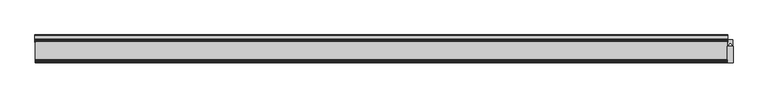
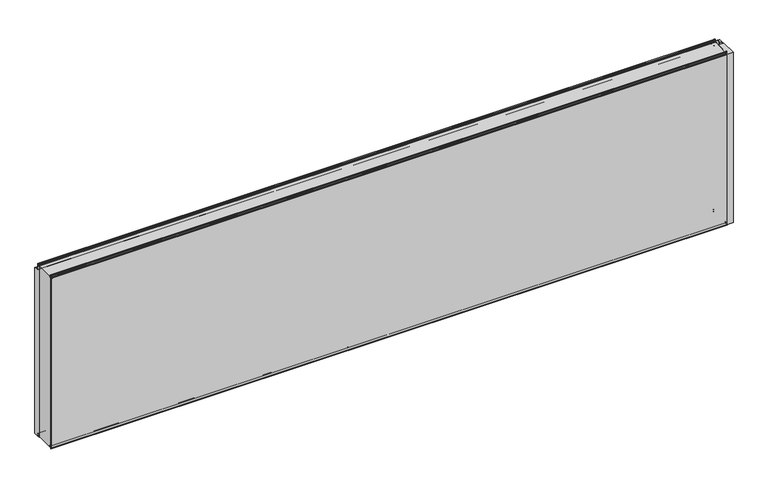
"""IFC4 building model written with IfcOpenShell, lengths in millimetres: plate geometry, Fronttop : Fronttop 150/1000."""

from ifc_helpers import new_model, si_unit, point, frame, frame_2d, origin, origin_with_axes, place, context, project, spatial, polyline, circle_curve, trimmed, segment, composite_curve, outline, extrude, source, transform, mapped, element, save
from ifc_brep_helpers import plane_surface, cylinder_surface, revolved_surface, advanced_brep


def plate_d031de24(model_context):
    return source(origin(), model_context, "Body", "SolidModel", [
        advanced_brep(
        [(-1876.5, 124.0, 1008.0), (-1876.5, 121.0, 1008.0), (-1876.5, 121.0, 1004.0), (-1876.5, 117.0, 1000.0), (-1876.5, 115.0, 1000.0), (-1876.5, 115.0, 1001.0), (-1876.5, 117.0, 1001.0), (-1876.5, 120.0, 1004.0), (-1876.5, 120.0, 1008.0), (-1876.5, 125.0, 1008.0), (-1876.5, 125.0, 1000.0), (-1876.5, 124.0, 1000.0), (1876.5, 125.0, 1008.0), (1876.5, 120.0, 1008.0), (1876.5, 120.0, 1004.0), (1876.5, 117.0, 1001.0), (1876.5, 115.0, 1001.0), (1876.5, 115.0, 1000.0), (1876.5, 117.0, 1000.0), (1876.5, 121.0, 1004.0), (1876.5, 121.0, 1008.0), (1876.5, 124.0, 1008.0), (1876.5, 124.0, 1000.0), (1876.5, 125.0, 1000.0), (-1876.5, 117.0, 2.0), (1876.5, 117.0, 2.0), (1876.5, 115.0, 2.0), (-1876.5, 115.0, 2.0), (-1876.5, 119.0, 4.0), (1876.5, 119.0, 4.0), (-1876.5, 119.0, 8.0), (1876.5, 119.0, 8.0), (-1876.5, 126.0, 8.0), (1876.5, 126.0, 8.0), (-1876.5, 126.0, 0.0), (1876.5, 126.0, 0.0), (-1876.5, 129.0, -3.0), (1876.5, 129.0, -3.0), (-1876.5, 125.0, -3.0), (-1877.5, 125.0, -3.0), (-1877.5, 147.0, -3.0), (-1876.5, 147.0, -3.0), (1876.5, 147.0, -3.0), (1877.5, 147.0, -3.0), (1877.5, 125.0, -3.0), (1876.5, 125.0, -3.0), (-1876.5, 150.0, 0.0), (1876.5, 150.0, 0.0), (-1877.5, 150.0, 0.0), (-1877.5, 150.0, 969.0), (-1876.5, 150.0, 969.0), (1876.5, 150.0, 969.0), (1877.5, 150.0, 969.0), (1877.5, 150.0, 0.0), (-1876.5, 147.0, 972.0), (1876.5, 147.0, 972.0), (-1877.5, 147.0, 972.0), (-1877.5, 128.0, 972.0), (-1876.5, 128.0, 972.0), (1876.5, 128.0, 972.0), (1877.5, 128.0, 972.0), (1877.5, 147.0, 972.0), (-1876.5, 125.0, 975.0), (1876.5, 125.0, 975.0), (-1877.5, 125.0, 975.0), (-1877.5, 125.0, 1000.0), (1877.5, 125.0, 1000.0), (1877.5, 125.0, 975.0), (-1876.5, 124.0, 975.0), (1876.5, 124.0, 975.0), (-1876.5, 128.0, 971.0), (1876.5, 128.0, 971.0), (-1876.5, 147.0, 971.0), (1876.5, 147.0, 971.0), (-1876.5, 149.0, 969.0), (1876.5, 149.0, 969.0), (-1876.5, 149.0, 0.0), (1876.5, 149.0, 0.0), (-1876.5, 147.0, -2.0), (1876.5, 147.0, -2.0), (-1876.5, 129.0, -2.0), (1876.5, 129.0, -2.0), (-1876.5, 127.0, 0.0), (1876.5, 127.0, 0.0), (-1876.5, 127.0, 8.0), (1876.5, 127.0, 8.0), (-1876.5, 118.0, 8.0), (1876.5, 118.0, 8.0), (-1876.5, 118.0, 4.0), (1876.5, 118.0, 4.0), (-1876.5, 117.0, 3.0), (1876.5, 117.0, 3.0), (-1876.5, 115.0, 3.0), (1876.5, 115.0, 3.0), (1877.5, 110.0, 1000.0), (1877.5, 110.0, 0.0), (1877.5, 125.0, 0.0), (1876.5, 125.0, 0.0), (1876.5, 110.0, 0.0), (1876.5, 110.0, 1000.0), (-1877.5, 125.0, 0.0), (-1877.5, 110.0, 0.0), (-1877.5, 110.0, 1000.0), (-1876.5, 110.0, 1000.0), (-1876.5, 110.0, 0.0), (-1876.5, 125.0, 0.0)],
        [
            (0, 1, circle_curve(frame((-1876.5, 122.5, 1008.0), z_axis=(1.0, 0.0, 0.0), x_axis=(0.0, -1.0, 0.0)), 1.5)),
            (1, 2),
            (2, 3, circle_curve(frame((-1876.5, 117.0, 1004.0), z_axis=(-1.0, 0.0, 0.0), x_axis=(0.0, -1.0, 0.0)), 4.0)),
            (3, 4),
            (4, 5),
            (5, 6),
            (6, 7, circle_curve(frame((-1876.5, 117.0, 1004.0), z_axis=(1.0, 0.0, 0.0), x_axis=(0.0, -1.0, 0.0)), 3.0)),
            (7, 8),
            (8, 9, circle_curve(frame((-1876.5, 122.5, 1008.0), z_axis=(-1.0, 0.0, 0.0), x_axis=(0.0, -1.0, 0.0)), 2.5)),
            (9, 10),
            (10, 11),
            (11, 0),
            (12, 13, circle_curve(frame((1876.5, 122.5, 1008.0), z_axis=(1.0, 0.0, 0.0), x_axis=(0.0, -1.0, 0.0)), 2.5)),
            (13, 14),
            (14, 15, circle_curve(frame((1876.5, 117.0, 1004.0), z_axis=(-1.0, 0.0, 0.0), x_axis=(0.0, -1.0, 0.0)), 3.0)),
            (15, 16),
            (16, 17),
            (17, 18),
            (18, 19, circle_curve(frame((1876.5, 117.0, 1004.0), z_axis=(1.0, 0.0, 0.0), x_axis=(0.0, -1.0, 0.0)), 4.0)),
            (19, 20),
            (20, 21, circle_curve(frame((1876.5, 122.5, 1008.0), z_axis=(-1.0, 0.0, 0.0), x_axis=(0.0, -1.0, 0.0)), 1.5)),
            (21, 22),
            (22, 23),
            (23, 12),
            (24, 25),
            (25, 26),
            (26, 27),
            (27, 24),
            (24, 28, circle_curve(frame((-1876.5, 117.0, 4.0), z_axis=(1.0, 0.0, 0.0), x_axis=(0.0, -1.0, 0.0)), 2.0)),
            (28, 29),
            (29, 25, circle_curve(frame((1876.5, 117.0, 4.0), z_axis=(-1.0, 0.0, 0.0), x_axis=(0.0, -1.0, 0.0)), 2.0)),
            (28, 30),
            (30, 31),
            (31, 29),
            (30, 32, circle_curve(frame((-1876.5, 122.5, 8.0), z_axis=(-1.0, 0.0, 0.0), x_axis=(0.0, -1.0, 0.0)), 3.5)),
            (32, 33),
            (33, 31, circle_curve(frame((1876.5, 122.5, 8.0), z_axis=(1.0, 0.0, 0.0), x_axis=(0.0, -1.0, 0.0)), 3.5)),
            (32, 34),
            (34, 35),
            (35, 33),
            (34, 36, circle_curve(frame((-1876.5, 129.0, 0.0), z_axis=(1.0, 0.0, 0.0), x_axis=(0.0, -1.0, 0.0)), 3.0)),
            (36, 37),
            (37, 35, circle_curve(frame((1876.5, 129.0, 0.0), z_axis=(-1.0, 0.0, 0.0), x_axis=(0.0, -1.0, 0.0)), 3.0)),
            (36, 38),
            (38, 39),
            (39, 40),
            (40, 41),
            (41, 42),
            (42, 43),
            (43, 44),
            (44, 45),
            (45, 37),
            (41, 46, circle_curve(frame((-1876.5, 147.0, 0.0), z_axis=(1.0, 0.0, 0.0), x_axis=(0.0, -1.0, 0.0)), 3.0)),
            (46, 47),
            (47, 42, circle_curve(frame((1876.5, 147.0, 0.0), z_axis=(-1.0, 0.0, 0.0), x_axis=(0.0, -1.0, 0.0)), 3.0)),
            (46, 48),
            (48, 49),
            (49, 50),
            (50, 51),
            (51, 52),
            (52, 53),
            (53, 47),
            (50, 54, circle_curve(frame((-1876.5, 147.0, 969.0), z_axis=(1.0, 0.0, 0.0), x_axis=(0.0, -1.0, 0.0)), 3.0)),
            (54, 55),
            (55, 51, circle_curve(frame((1876.5, 147.0, 969.0), z_axis=(-1.0, 0.0, 0.0), x_axis=(0.0, -1.0, 0.0)), 3.0)),
            (54, 56),
            (56, 57),
            (57, 58),
            (58, 59),
            (59, 60),
            (60, 61),
            (61, 55),
            (58, 62, circle_curve(frame((-1876.5, 128.0, 975.0), z_axis=(-1.0, 0.0, 0.0), x_axis=(0.0, -1.0, 0.0)), 3.0)),
            (62, 63),
            (63, 59, circle_curve(frame((1876.5, 128.0, 975.0), z_axis=(1.0, 0.0, 0.0), x_axis=(0.0, -1.0, 0.0)), 3.0)),
            (62, 64),
            (64, 65),
            (65, 10),
            (9, 12),
            (23, 66),
            (66, 67),
            (67, 63),
            (8, 13),
            (7, 14),
            (6, 15),
            (5, 16),
            (4, 17),
            (4, 3),
            (3, 18),
            (18, 17),
            (2, 19),
            (1, 20),
            (0, 21),
            (11, 68),
            (68, 69),
            (69, 22),
            (68, 70, circle_curve(frame((-1876.5, 128.0, 975.0), z_axis=(1.0, 0.0, 0.0), x_axis=(0.0, -1.0, 0.0)), 4.0)),
            (70, 71),
            (71, 69, circle_curve(frame((1876.5, 128.0, 975.0), z_axis=(-1.0, 0.0, 0.0), x_axis=(0.0, -1.0, 0.0)), 4.0)),
            (70, 72),
            (72, 73),
            (73, 71),
            (72, 74, circle_curve(frame((-1876.5, 147.0, 969.0), z_axis=(-1.0, 0.0, 0.0), x_axis=(0.0, -1.0, 0.0)), 2.0)),
            (74, 75),
            (75, 73, circle_curve(frame((1876.5, 147.0, 969.0), z_axis=(1.0, 0.0, 0.0), x_axis=(0.0, -1.0, 0.0)), 2.0)),
            (74, 76),
            (76, 77),
            (77, 75),
            (76, 78, circle_curve(frame((-1876.5, 147.0, 0.0), z_axis=(-1.0, 0.0, 0.0), x_axis=(0.0, -1.0, 0.0)), 2.0)),
            (78, 79),
            (79, 77, circle_curve(frame((1876.5, 147.0, 0.0), z_axis=(1.0, 0.0, 0.0), x_axis=(0.0, -1.0, 0.0)), 2.0)),
            (78, 80),
            (80, 81),
            (81, 79),
            (80, 82, circle_curve(frame((-1876.5, 129.0, 0.0), z_axis=(-1.0, 0.0, 0.0), x_axis=(0.0, -1.0, 0.0)), 2.0)),
            (82, 83),
            (83, 81, circle_curve(frame((1876.5, 129.0, 0.0), z_axis=(1.0, 0.0, 0.0), x_axis=(0.0, -1.0, 0.0)), 2.0)),
            (82, 84),
            (84, 85),
            (85, 83),
            (84, 86, circle_curve(frame((-1876.5, 122.5, 8.0), z_axis=(1.0, 0.0, 0.0), x_axis=(0.0, -1.0, 0.0)), 4.5)),
            (86, 87),
            (87, 85, circle_curve(frame((1876.5, 122.5, 8.0), z_axis=(-1.0, 0.0, 0.0), x_axis=(0.0, -1.0, 0.0)), 4.5)),
            (86, 88),
            (88, 89),
            (89, 87),
            (88, 90, circle_curve(frame((-1876.5, 117.0, 4.0), z_axis=(-1.0, 0.0, 0.0), x_axis=(0.0, -1.0, 0.0)), 1.0)),
            (90, 91),
            (91, 89, circle_curve(frame((1876.5, 117.0, 4.0), z_axis=(1.0, 0.0, 0.0), x_axis=(0.0, -1.0, 0.0)), 1.0)),
            (90, 92),
            (92, 93),
            (93, 91),
            (26, 93),
            (92, 27),
            (66, 94),
            (94, 95),
            (95, 96),
            (96, 44),
            (43, 53, circle_curve(frame((1877.5, 147.0, 0.0), z_axis=(1.0, 0.0, 0.0), x_axis=(0.0, 1.0, 0.0)), 3.0)),
            (52, 61, circle_curve(frame((1877.5, 147.0, 969.0), z_axis=(1.0, 0.0, 0.0), x_axis=(0.0, 1.0, 0.0)), 3.0)),
            (60, 67, circle_curve(frame((1877.5, 128.0, 975.0), z_axis=(-1.0, 0.0, 0.0), x_axis=(0.0, 1.0, 0.0)), 3.0)),
            (45, 97),
            (97, 98),
            (98, 99),
            (99, 17),
            (18, 22),
            (99, 94),
            (98, 95),
            (97, 96),
            (64, 57, circle_curve(frame((-1877.5, 128.0, 975.0), z_axis=(1.0, 0.0, 0.0), x_axis=(0.0, 1.0, 0.0)), 3.0)),
            (56, 49, circle_curve(frame((-1877.5, 147.0, 969.0), z_axis=(-1.0, 0.0, 0.0), x_axis=(0.0, 1.0, 0.0)), 3.0)),
            (48, 40, circle_curve(frame((-1877.5, 147.0, 0.0), z_axis=(-1.0, 0.0, 0.0), x_axis=(0.0, 1.0, 0.0)), 3.0)),
            (39, 100),
            (100, 101),
            (101, 102),
            (102, 65),
            (103, 104),
            (104, 105),
            (105, 38),
            (11, 3),
            (4, 103),
            (102, 103),
            (101, 104),
            (100, 105),
        ],
        [
            plane_surface(frame((-1876.5, 0.0, 0.0), z_axis=(-1.0, 0.0, 0.0), x_axis=(0.0, 0.0, 1.0))),
            plane_surface(frame((1876.5, 0.0, 0.0), z_axis=(1.0, 0.0, 0.0), x_axis=(0.0, 0.0, 1.0))),
            plane_surface(frame((-1876.5, 117.0, 2.0), z_axis=(0.0, 0.0, -1.0), x_axis=(1.0, 0.0, 0.0))),
            cylinder_surface(frame((-1876.5, 117.0, 4.0), z_axis=(-1.0, 0.0, 0.0), x_axis=(0.0, -1.0, 0.0)), 2.0),
            plane_surface(frame((-1876.5, 119.0, 8.0), z_axis=(0.0, 1.0, 0.0), x_axis=(1.0, 0.0, 0.0))),
            revolved_surface(polyline([(1876.5, 119.0, 8.0), (-1876.5, 119.0, 8.0)]), (-1876.5, 122.5, 8.0), (1.0, 0.0, 0.0)),
            plane_surface(frame((-1876.5, 126.0, 0.0), z_axis=(0.0, -1.0, 0.0), x_axis=(1.0, 0.0, 0.0))),
            cylinder_surface(frame((-1876.5, 129.0, 0.0), z_axis=(-1.0, 0.0, 0.0), x_axis=(0.0, -1.0, 0.0)), 3.0),
            plane_surface(frame((-1876.5, 147.0, -3.0), z_axis=(0.0, 0.0, -1.0), x_axis=(1.0, 0.0, 0.0))),
            cylinder_surface(frame((-1876.5, 147.0, 0.0), z_axis=(-1.0, 0.0, 0.0), x_axis=(0.0, -1.0, 0.0)), 3.0),
            plane_surface(frame((-1876.5, 150.0, 969.0), z_axis=(0.0, 1.0, 0.0), x_axis=(1.0, 0.0, 0.0))),
            cylinder_surface(frame((-1876.5, 147.0, 969.0), z_axis=(-1.0, 0.0, 0.0), x_axis=(0.0, -1.0, 0.0)), 3.0),
            plane_surface(frame((-1876.5, 128.0, 972.0), z_axis=(0.0, 0.0, 1.0), x_axis=(1.0, 0.0, 0.0))),
            revolved_surface(polyline([(1876.5, 125.0, 975.0), (-1876.5, 125.0, 975.0)]), (-1876.5, 128.0, 975.0), (1.0, 0.0, 0.0)),
            plane_surface(frame((-1876.5, 125.0, 1008.0), z_axis=(0.0, 1.0, 0.0), x_axis=(1.0, 0.0, 0.0))),
            cylinder_surface(frame((-1876.5, 122.5, 1008.0), z_axis=(-1.0, 0.0, 0.0), x_axis=(0.0, -1.0, 0.0)), 2.5),
            plane_surface(frame((-1876.5, 120.0, 1004.0), z_axis=(0.0, -1.0, 0.0), x_axis=(1.0, 0.0, 0.0))),
            revolved_surface(polyline([(1876.5, 114.0, 1004.0), (-1876.5, 114.0, 1004.0)]), (-1876.5, 117.0, 1004.0), (1.0, 0.0, 0.0)),
            plane_surface(frame((-1876.5, 115.0, 1001.0), z_axis=(0.0, 0.0, 1.0), x_axis=(1.0, 0.0, 0.0))),
            plane_surface(frame((-1876.5, 115.0, 1000.0), z_axis=(0.0, -1.0, 0.0), x_axis=(1.0, 0.0, 0.0))),
            plane_surface(frame((-1876.5, 117.0, 1000.0), z_axis=(0.0, 0.0, -1.0), x_axis=(1.0, 0.0, 0.0))),
            cylinder_surface(frame((-1876.5, 117.0, 1004.0), z_axis=(-1.0, 0.0, 0.0), x_axis=(0.0, -1.0, 0.0)), 4.0),
            plane_surface(frame((-1876.5, 121.0, 1008.0), z_axis=(0.0, 1.0, 0.0), x_axis=(1.0, 0.0, 0.0))),
            revolved_surface(polyline([(1876.5, 121.0, 1008.0), (-1876.5, 121.0, 1008.0)]), (-1876.5, 122.5, 1008.0), (1.0, 0.0, 0.0)),
            plane_surface(frame((-1876.5, 124.0, 975.0), z_axis=(0.0, -1.0, 0.0), x_axis=(1.0, 0.0, 0.0))),
            cylinder_surface(frame((-1876.5, 128.0, 975.0), z_axis=(-1.0, 0.0, 0.0), x_axis=(0.0, -1.0, 0.0)), 4.0),
            plane_surface(frame((-1876.5, 147.0, 971.0), z_axis=(0.0, 0.0, -1.0), x_axis=(1.0, 0.0, 0.0))),
            revolved_surface(polyline([(1876.5, 145.0, 969.0), (-1876.5, 145.0, 969.0)]), (-1876.5, 147.0, 969.0), (1.0, 0.0, 0.0)),
            plane_surface(frame((-1876.5, 149.0, 0.0), z_axis=(0.0, -1.0, 0.0), x_axis=(1.0, 0.0, 0.0))),
            revolved_surface(polyline([(1876.5, 145.0, 0.0), (-1876.5, 145.0, 0.0)]), (-1876.5, 147.0, 0.0), (1.0, 0.0, 0.0)),
            plane_surface(frame((-1876.5, 129.0, -2.0), z_axis=(0.0, 0.0, 1.0), x_axis=(1.0, 0.0, 0.0))),
            revolved_surface(polyline([(1876.5, 127.0, 0.0), (-1876.5, 127.0, 0.0)]), (-1876.5, 129.0, 0.0), (1.0, 0.0, 0.0)),
            plane_surface(frame((-1876.5, 127.0, 8.0), z_axis=(0.0, 1.0, 0.0), x_axis=(1.0, 0.0, 0.0))),
            cylinder_surface(frame((-1876.5, 122.5, 8.0), z_axis=(-1.0, 0.0, 0.0), x_axis=(0.0, -1.0, 0.0)), 4.5),
            plane_surface(frame((-1876.5, 118.0, 4.0), z_axis=(0.0, -1.0, 0.0), x_axis=(1.0, 0.0, 0.0))),
            revolved_surface(polyline([(1876.5, 116.0, 4.0), (-1876.5, 116.0, 4.0)]), (-1876.5, 117.0, 4.0), (1.0, 0.0, 0.0)),
            plane_surface(frame((-1876.5, 115.0, 3.0), z_axis=(0.0, 0.0, 1.0), x_axis=(1.0, 0.0, 0.0))),
            plane_surface(frame((-1876.5, 115.0, 2.0), z_axis=(0.0, -1.0, 0.0), x_axis=(1.0, 0.0, 0.0))),
            plane_surface(frame((1877.5, 125.0, 1000.0), z_axis=(1.0, 0.0, 0.0), x_axis=(0.0, -1.0, 0.0))),
            plane_surface(frame((1876.5, 125.0, 1000.0), z_axis=(-1.0, 0.0, 0.0), x_axis=(0.0, 1.0, 0.0))),
            plane_surface(frame((1877.5, 125.0, 1000.0), z_axis=(0.0, 0.0, 1.0), x_axis=(-1.0, 0.0, 0.0))),
            plane_surface(frame((1877.5, 110.0, 1000.0), z_axis=(0.0, -1.0, 0.0), x_axis=(-1.0, 0.0, 0.0))),
            plane_surface(frame((1877.5, 110.0, 0.0), z_axis=(0.0, 0.0, -1.0), x_axis=(-1.0, 0.0, 0.0))),
            cylinder_surface(frame((1876.5, 147.0, 0.0), z_axis=(1.0, 0.0, 0.0), x_axis=(0.0, 1.0, 0.0)), 3.0),
            cylinder_surface(frame((1876.5, 147.0, 969.0), z_axis=(1.0, 0.0, 0.0), x_axis=(0.0, 1.0, 0.0)), 3.0),
            revolved_surface(polyline([(1876.5, 131.0, 975.0), (1877.5, 131.0, 975.0)]), (1876.5, 128.0, 975.0), (-1.0, 0.0, 0.0)),
            plane_surface(frame((-1877.5, 125.0, 1000.0), z_axis=(-1.0, 0.0, 0.0), x_axis=(0.0, 1.0, 0.0))),
            plane_surface(frame((-1876.5, 125.0, 1000.0), z_axis=(1.0, 0.0, 0.0), x_axis=(0.0, -1.0, 0.0))),
            plane_surface(frame((-1876.5, 125.0, 1000.0), z_axis=(0.0, 0.0, 1.0), x_axis=(-1.0, 0.0, 0.0))),
            plane_surface(frame((-1876.5, 110.0, 1000.0), z_axis=(0.0, -1.0, 0.0), x_axis=(-1.0, 0.0, 0.0))),
            plane_surface(frame((-1876.5, 110.0, 0.0), z_axis=(0.0, 0.0, -1.0), x_axis=(-1.0, 0.0, 0.0))),
            cylinder_surface(frame((-1877.5, 147.0, 0.0), z_axis=(1.0, 0.0, 0.0), x_axis=(0.0, 1.0, 0.0)), 3.0),
            cylinder_surface(frame((-1877.5, 147.0, 969.0), z_axis=(1.0, 0.0, 0.0), x_axis=(0.0, 1.0, 0.0)), 3.0),
            revolved_surface(polyline([(-1877.5, 131.0, 975.0), (-1876.5, 131.0, 975.0)]), (-1877.5, 128.0, 975.0), (-1.0, 0.0, 0.0)),
            plane_surface(frame((1877.5, 125.0, 0.0), z_axis=(0.0, -1.0, 0.0), x_axis=(-1.0, 0.0, 0.0))),
            plane_surface(frame((-1876.5, 125.0, 0.0), z_axis=(0.0, -1.0, 0.0), x_axis=(-1.0, 0.0, 0.0))),
        ],
        [
            (0, [[1, 2, 3, 4, 5, 6, 7, 8, 9, 10, 11, 12]]),
            (1, [[13, 14, 15, 16, 17, 18, 19, 20, 21, 22, 23, 24]]),
            (2, [[25, 26, 27, 28]]),
            (3, [[-25, 29, 30, 31]]),
            (4, [[-30, 32, 33, 34]]),
            (5, [[-33, 35, 36, 37]]),
            (6, [[-36, 38, 39, 40]]),
            (7, [[-39, 41, 42, 43]]),
            (8, [[-42, 44, 45, 46, 47, 48, 49, 50, 51, 52]]),
            (9, [[-48, 53, 54, 55]]),
            (10, [[-54, 56, 57, 58, 59, 60, 61, 62]]),
            (11, [[-59, 63, 64, 65]]),
            (12, [[-64, 66, 67, 68, 69, 70, 71, 72]]),
            (13, [[-69, 73, 74, 75]]),
            (14, [[-74, 76, 77, 78, -10, 79, -24, 80, 81, 82]]),
            (15, [[-9, 83, -13, -79]]),
            (16, [[-8, 84, -14, -83]]),
            (17, [[-7, 85, -15, -84]]),
            (18, [[-6, 86, -16, -85]]),
            (19, [[-5, 87, -17, -86]]),
            (20, [[-87, 88, 89, 90]]),
            (21, [[-3, 91, -19, -89]]),
            (22, [[-2, 92, -20, -91]]),
            (23, [[-1, 93, -21, -92]]),
            (24, [[-93, -12, 94, 95, 96, -22]]),
            (25, [[-95, 97, 98, 99]]),
            (26, [[-98, 100, 101, 102]]),
            (27, [[-101, 103, 104, 105]]),
            (28, [[-104, 106, 107, 108]]),
            (29, [[-107, 109, 110, 111]]),
            (30, [[-110, 112, 113, 114]]),
            (31, [[-113, 115, 116, 117]]),
            (32, [[-116, 118, 119, 120]]),
            (33, [[-119, 121, 122, 123]]),
            (34, [[-122, 124, 125, 126]]),
            (35, [[-125, 127, 128, 129]]),
            (36, [[-128, 130, 131, 132]]),
            (37, [[-27, 133, -131, 134]]),
            (38, [[135, 136, 137, 138, -50, 139, -61, 140, -71, 141, -81]]),
            (39, [[142, 143, 144, 145, -90, 146, -96, -99, -102, -105, -108, -111, -114, -117, -120, -123, -126, -129, -132, -133, -26, -31, -34, -37, -40, -43, -52]]),
            (40, [[-135, -80, -23, -146, -18, -145, 147]]),
            (41, [[-136, -147, -144, 148]]),
            (42, [[-137, -148, -143, 149]]),
            (43, [[-139, -49, -55, -62]]),
            (44, [[-140, -60, -65, -72]]),
            (45, [[-141, -70, -75, -82]]),
            (46, [[-77, 150, -67, 151, -57, 152, -46, 153, 154, 155, 156]]),
            (47, [[157, 158, 159, -44, -41, -38, -35, -32, -29, -28, -134, -130, -127, -124, -121, -118, -115, -112, -109, -106, -103, -100, -97, -94, 160, -88, 161]]),
            (48, [[-156, 162, -161, -4, -160, -11, -78]]),
            (49, [[-155, 163, -157, -162]]),
            (50, [[-154, 164, -158, -163]]),
            (51, [[-152, -56, -53, -47]]),
            (52, [[-151, -66, -63, -58]]),
            (53, [[-150, -76, -73, -68]]),
            (54, [[-138, -149, -142, -51]]),
            (55, [[-153, -45, -159, -164]]),
        ],
    ),
        extrude(outline(composite_curve([segment(polyline([(1877.4998455, 123.5), (1889.25, 123.5), (1889.25, 107.5), (1890.75, 107.5), (1890.75, 123.5), (1902.5001545, 123.5), (1902.5001545, 90.0), (1899.75, 90.0), (1899.75, 92.5)]), True, "CONTINUOUS"), segment(trimmed(circle_curve(frame_2d((1881.9661979, 89.3183984)), 18.0661619), [point((1899.75, 92.5))], [point((1890.0, 105.5))], True, "CARTESIAN"), True, "CONTINUOUS"), segment(trimmed(circle_curve(frame_2d((1898.0338021, 89.3183984)), 18.0661619), [point((1890.0, 105.5))], [point((1880.25, 92.5))], True, "CARTESIAN"), True, "CONTINUOUS"), segment(polyline([(1880.25, 92.5), (1880.25, 90.0), (1877.4998455, 90.0), (1877.4998455, 123.5)]), True, "CONTINUOUS")], self_intersect=False)), origin_with_axes(), (0.0, 0.0, 1.0), 1000.0),
        extrude(outline(polyline([(1905.5, 0.0), (1874.5, 0.0), (1874.5, 88.0), (1905.5, 88.0), (1905.5, 0.0)])), origin_with_axes(), (0.0, 0.0, 1.0), 1000.0),
        extrude(outline(polyline([(1878.4948846, 125.0), (1901.5051154, 125.0), (1901.5051154, 123.5), (1890.6502496, 123.5), (1890.6502496, 109.0759655), (1889.35, 109.0759655), (1889.35, 123.5), (1878.4948846, 123.5), (1878.4948846, 125.0)])), origin_with_axes(), (0.0, 0.0, 1.0), 1000.0),
        advanced_brep(
        [(-1874.5, 13.0, 1001.0), (-1874.5, 15.0, 1001.0), (-1874.5, 15.0, 1000.0), (-1874.5, 13.0, 1000.0), (-1874.5, 9.0, 1004.0), (-1874.5, 9.0, 1008.0), (-1874.5, 6.0, 1008.0), (-1874.5, 6.0, 999.5), (-1874.5, 2.1134897, 996.0214069), (-1874.5, 1.0, 995.0), (-1874.5, 1.0, -0.5), (-1874.5, 3.0, -0.5), (-1874.5, 3.0, 8.0), (-1874.5, 12.0, 8.0), (-1874.5, 12.0, 4.0), (-1874.5, 13.0, 3.0), (-1874.5, 15.0, 3.0), (-1874.5, 15.0, 2.0), (-1874.5, 13.0, 2.0), (-1874.5, 11.0, 4.0), (-1874.5, 11.0, 8.0), (-1874.5, 4.0, 8.0), (-1874.5, 4.0, -0.5), (-1874.5, 0.0, -0.5), (-1874.5, 0.0, 995.0), (-1874.5, 2.220863, 996.9877675), (-1874.5, 5.0, 999.5), (-1874.5, 5.0, 1008.0), (-1874.5, 10.0, 1008.0), (-1874.5, 10.0, 1004.0), (1874.5, 13.0, 1001.0), (1874.5, 10.0, 1004.0), (1874.5, 10.0, 1008.0), (1874.5, 5.0, 1008.0), (1874.5, 5.0, 999.5), (1874.5, 2.2239212, 997.0152907), (1874.5, 0.0, 995.0), (1874.5, 0.0, -0.5), (1874.5, 4.0, -0.5), (1874.5, 4.0, 8.0), (1874.5, 11.0, 8.0), (1874.5, 11.0, 4.0), (1874.5, 13.0, 2.0), (1874.5, 15.0, 2.0), (1874.5, 15.0, 3.0), (1874.5, 13.0, 3.0), (1874.5, 12.0, 4.0), (1874.5, 12.0, 8.0), (1874.5, 3.0, 8.0), (1874.5, 3.0, -0.5), (1874.5, 1.0, -0.5), (1874.5, 1.0, 995.0), (1874.5, 2.1104315, 995.9938837), (1874.5, 6.0, 999.5), (1874.5, 6.0, 1008.0), (1874.5, 9.0, 1008.0), (1874.5, 9.0, 1004.0), (1874.5, 13.0, 1000.0), (1874.5, 15.0, 1000.0), (1874.5, 15.0, 1001.0)],
        [
            (0, 1),
            (1, 2),
            (2, 3),
            (3, 4, circle_curve(frame((-1874.5, 13.0, 1004.0), z_axis=(-1.0, 0.0, 0.0), x_axis=(0.0, -1.0, 0.0)), 4.0)),
            (4, 5),
            (5, 6, circle_curve(frame((-1874.5, 7.5, 1008.0), z_axis=(1.0, 0.0, 0.0), x_axis=(0.0, -1.0, 0.0)), 1.5)),
            (6, 7),
            (7, 8, circle_curve(frame((-1874.5, 2.5, 999.5), z_axis=(-1.0, 0.0, 0.0), x_axis=(0.0, -1.0, 0.0)), 3.5)),
            (8, 9, circle_curve(frame((-1874.5, 2.0, 995.0), z_axis=(1.0, 0.0, 0.0), x_axis=(0.0, -1.0, 0.0)), 1.0)),
            (9, 10),
            (10, 11, circle_curve(frame((-1874.5, 2.0, -0.5), z_axis=(1.0, 0.0, 0.0), x_axis=(0.0, -1.0, 0.0)), 1.0)),
            (11, 12),
            (12, 13, circle_curve(frame((-1874.5, 7.5, 8.0), z_axis=(-1.0, 0.0, 0.0), x_axis=(0.0, -1.0, 0.0)), 4.5)),
            (13, 14),
            (14, 15, circle_curve(frame((-1874.5, 13.0, 4.0), z_axis=(1.0, 0.0, 0.0), x_axis=(0.0, -1.0, 0.0)), 1.0)),
            (15, 16),
            (16, 17),
            (17, 18),
            (18, 19, circle_curve(frame((-1874.5, 13.0, 4.0), z_axis=(-1.0, 0.0, 0.0), x_axis=(0.0, -1.0, 0.0)), 2.0)),
            (19, 20),
            (20, 21, circle_curve(frame((-1874.5, 7.5, 8.0), z_axis=(1.0, 0.0, 0.0), x_axis=(0.0, -1.0, 0.0)), 3.5)),
            (21, 22),
            (22, 23, circle_curve(frame((-1874.5, 2.0, -0.5), z_axis=(-1.0, 0.0, 0.0), x_axis=(0.0, -1.0, 0.0)), 2.0)),
            (23, 24),
            (24, 25, circle_curve(frame((-1874.5, 2.0, 995.0), z_axis=(-1.0, 0.0, 0.0), x_axis=(0.0, -1.0, 0.0)), 2.0)),
            (25, 26, circle_curve(frame((-1874.5, 2.5, 999.5), z_axis=(1.0, 0.0, 0.0), x_axis=(0.0, -1.0, 0.0)), 2.5)),
            (26, 27),
            (27, 28, circle_curve(frame((-1874.5, 7.5, 1008.0), z_axis=(-1.0, 0.0, 0.0), x_axis=(0.0, -1.0, 0.0)), 2.5)),
            (28, 29),
            (29, 0, circle_curve(frame((-1874.5, 13.0, 1004.0), z_axis=(1.0, 0.0, 0.0), x_axis=(0.0, -1.0, 0.0)), 3.0)),
            (30, 31, circle_curve(frame((1874.5, 13.0, 1004.0), z_axis=(-1.0, 0.0, 0.0), x_axis=(0.0, -1.0, 0.0)), 3.0)),
            (31, 32),
            (32, 33, circle_curve(frame((1874.5, 7.5, 1008.0), z_axis=(1.0, 0.0, 0.0), x_axis=(0.0, -1.0, 0.0)), 2.5)),
            (33, 34),
            (34, 35, circle_curve(frame((1874.5, 2.5, 999.5), z_axis=(-1.0, 0.0, 0.0), x_axis=(0.0, -1.0, 0.0)), 2.5)),
            (35, 36, circle_curve(frame((1874.5, 2.0, 995.0), z_axis=(1.0, 0.0, 0.0), x_axis=(0.0, -1.0, 0.0)), 2.0)),
            (36, 37),
            (37, 38, circle_curve(frame((1874.5, 2.0, -0.5), z_axis=(1.0, 0.0, 0.0), x_axis=(0.0, -1.0, 0.0)), 2.0)),
            (38, 39),
            (39, 40, circle_curve(frame((1874.5, 7.5, 8.0), z_axis=(-1.0, 0.0, 0.0), x_axis=(0.0, -1.0, 0.0)), 3.5)),
            (40, 41),
            (41, 42, circle_curve(frame((1874.5, 13.0, 4.0), z_axis=(1.0, 0.0, 0.0), x_axis=(0.0, -1.0, 0.0)), 2.0)),
            (42, 43),
            (43, 44),
            (44, 45),
            (45, 46, circle_curve(frame((1874.5, 13.0, 4.0), z_axis=(-1.0, 0.0, 0.0), x_axis=(0.0, -1.0, 0.0)), 1.0)),
            (46, 47),
            (47, 48, circle_curve(frame((1874.5, 7.5, 8.0), z_axis=(1.0, 0.0, 0.0), x_axis=(0.0, -1.0, 0.0)), 4.5)),
            (48, 49),
            (49, 50, circle_curve(frame((1874.5, 2.0, -0.5), z_axis=(-1.0, 0.0, 0.0), x_axis=(0.0, -1.0, 0.0)), 1.0)),
            (50, 51),
            (51, 52, circle_curve(frame((1874.5, 2.0, 995.0), z_axis=(-1.0, 0.0, 0.0), x_axis=(0.0, -1.0, 0.0)), 1.0)),
            (52, 53, circle_curve(frame((1874.5, 2.5, 999.5), z_axis=(1.0, 0.0, 0.0), x_axis=(0.0, -1.0, 0.0)), 3.5)),
            (53, 54),
            (54, 55, circle_curve(frame((1874.5, 7.5, 1008.0), z_axis=(-1.0, 0.0, 0.0), x_axis=(0.0, -1.0, 0.0)), 1.5)),
            (55, 56),
            (56, 57, circle_curve(frame((1874.5, 13.0, 1004.0), z_axis=(1.0, 0.0, 0.0), x_axis=(0.0, -1.0, 0.0)), 4.0)),
            (57, 58),
            (58, 59),
            (59, 30),
            (0, 30),
            (59, 1),
            (58, 2),
            (57, 3),
            (56, 4),
            (55, 5),
            (54, 6),
            (53, 7),
            (52, 8),
            (51, 9),
            (50, 10),
            (49, 11),
            (48, 12),
            (47, 13),
            (46, 14),
            (45, 15),
            (44, 16),
            (43, 17),
            (42, 18),
            (41, 19),
            (40, 20),
            (39, 21),
            (38, 22),
            (37, 23),
            (36, 24),
            (35, 25),
            (34, 26),
            (33, 27),
            (32, 28),
            (31, 29),
        ],
        [
            plane_surface(frame((-1874.5, 0.0, 0.0), z_axis=(-1.0, 0.0, 0.0), x_axis=(0.0, 0.0, 1.0))),
            plane_surface(frame((1874.5, 0.0, 0.0), z_axis=(1.0, 0.0, 0.0), x_axis=(0.0, 0.0, 1.0))),
            plane_surface(frame((-1874.5, 13.0, 1001.0), z_axis=(0.0, 0.0, 1.0), x_axis=(1.0, 0.0, 0.0))),
            plane_surface(frame((-1874.5, 15.0, 1001.0), z_axis=(0.0, 1.0, 0.0), x_axis=(1.0, 0.0, 0.0))),
            plane_surface(frame((-1874.5, 15.0, 1000.0), z_axis=(0.0, 0.0, -1.0), x_axis=(1.0, 0.0, 0.0))),
            cylinder_surface(frame((-1874.5, 13.0, 1004.0), z_axis=(-1.0, 0.0, 0.0), x_axis=(0.0, -1.0, 0.0)), 4.0),
            plane_surface(frame((-1874.5, 9.0, 1004.0), z_axis=(0.0, -1.0, 0.0), x_axis=(1.0, 0.0, 0.0))),
            revolved_surface(polyline([(1874.5, 6.0, 1008.0), (-1874.5, 6.0, 1008.0)]), (-1874.5, 7.5, 1008.0), (1.0, 0.0, 0.0)),
            plane_surface(frame((-1874.5, 6.0, 1008.0), z_axis=(0.0, 1.0, 0.0), x_axis=(1.0, 0.0, 0.0))),
            cylinder_surface(frame((-1874.5, 2.5, 999.5), z_axis=(-1.0, 0.0, 0.0), x_axis=(0.0, -1.0, 0.0)), 3.5),
            revolved_surface(polyline([(1874.5, 1.0, 995.0), (-1874.5, 1.0, 995.0)]), (-1874.5, 2.0, 995.0), (1.0, 0.0, 0.0)),
            plane_surface(frame((-1874.5, 1.0, 995.0), z_axis=(0.0, 1.0, 0.0), x_axis=(1.0, 0.0, 0.0))),
            revolved_surface(polyline([(1874.5, 1.0, -0.5), (-1874.5, 1.0, -0.5)]), (-1874.5, 2.0, -0.5), (1.0, 0.0, 0.0)),
            plane_surface(frame((-1874.5, 3.0, -0.5), z_axis=(0.0, -1.0, 0.0), x_axis=(1.0, 0.0, 0.0))),
            cylinder_surface(frame((-1874.5, 7.5, 8.0), z_axis=(-1.0, 0.0, 0.0), x_axis=(0.0, -1.0, 0.0)), 4.5),
            plane_surface(frame((-1874.5, 12.0, 8.0), z_axis=(0.0, 1.0, 0.0), x_axis=(1.0, 0.0, 0.0))),
            revolved_surface(polyline([(1874.5, 12.0, 4.0), (-1874.5, 12.0, 4.0)]), (-1874.5, 13.0, 4.0), (1.0, 0.0, 0.0)),
            plane_surface(frame((-1874.5, 13.0, 3.0), z_axis=(0.0, 0.0, 1.0), x_axis=(1.0, 0.0, 0.0))),
            plane_surface(frame((-1874.5, 15.0, 3.0), z_axis=(0.0, 1.0, 0.0), x_axis=(1.0, 0.0, 0.0))),
            plane_surface(frame((-1874.5, 15.0, 2.0), z_axis=(0.0, 0.0, -1.0), x_axis=(1.0, 0.0, 0.0))),
            cylinder_surface(frame((-1874.5, 13.0, 4.0), z_axis=(-1.0, 0.0, 0.0), x_axis=(0.0, -1.0, 0.0)), 2.0),
            plane_surface(frame((-1874.5, 11.0, 4.0), z_axis=(0.0, -1.0, 0.0), x_axis=(1.0, 0.0, 0.0))),
            revolved_surface(polyline([(1874.5, 4.0, 8.0), (-1874.5, 4.0, 8.0)]), (-1874.5, 7.5, 8.0), (1.0, 0.0, 0.0)),
            plane_surface(frame((-1874.5, 4.0, 8.0), z_axis=(0.0, 1.0, 0.0), x_axis=(1.0, 0.0, 0.0))),
            cylinder_surface(frame((-1874.5, 2.0, -0.5), z_axis=(-1.0, 0.0, 0.0), x_axis=(0.0, -1.0, 0.0)), 2.0),
            plane_surface(frame((-1874.5, 0.0, -0.5), z_axis=(0.0, -1.0, 0.0), x_axis=(1.0, 0.0, 0.0))),
            cylinder_surface(frame((-1874.5, 2.0, 995.0), z_axis=(-1.0, 0.0, 0.0), x_axis=(0.0, -1.0, 0.0)), 2.0),
            revolved_surface(polyline([(1874.5, 0.0, 999.5), (-1874.5, 0.0, 999.5)]), (-1874.5, 2.5, 999.5), (1.0, 0.0, 0.0)),
            plane_surface(frame((-1874.5, 5.0, 999.5), z_axis=(0.0, -1.0, 0.0), x_axis=(1.0, 0.0, 0.0))),
            cylinder_surface(frame((-1874.5, 7.5, 1008.0), z_axis=(-1.0, 0.0, 0.0), x_axis=(0.0, -1.0, 0.0)), 2.5),
            plane_surface(frame((-1874.5, 10.0, 1008.0), z_axis=(0.0, 1.0, 0.0), x_axis=(1.0, 0.0, 0.0))),
            revolved_surface(polyline([(1874.5, 10.0, 1004.0), (-1874.5, 10.0, 1004.0)]), (-1874.5, 13.0, 1004.0), (1.0, 0.0, 0.0)),
        ],
        [
            (0, [[1, 2, 3, 4, 5, 6, 7, 8, 9, 10, 11, 12, 13, 14, 15, 16, 17, 18, 19, 20, 21, 22, 23, 24, 25, 26, 27, 28, 29, 30]]),
            (1, [[31, 32, 33, 34, 35, 36, 37, 38, 39, 40, 41, 42, 43, 44, 45, 46, 47, 48, 49, 50, 51, 52, 53, 54, 55, 56, 57, 58, 59, 60]]),
            (2, [[-1, 61, -60, 62]]),
            (3, [[-2, -62, -59, 63]]),
            (4, [[-3, -63, -58, 64]]),
            (5, [[-4, -64, -57, 65]]),
            (6, [[-5, -65, -56, 66]]),
            (7, [[-6, -66, -55, 67]]),
            (8, [[-7, -67, -54, 68]]),
            (9, [[-8, -68, -53, 69]]),
            (10, [[-9, -69, -52, 70]]),
            (11, [[-10, -70, -51, 71]]),
            (12, [[-11, -71, -50, 72]]),
            (13, [[-12, -72, -49, 73]]),
            (14, [[-13, -73, -48, 74]]),
            (15, [[-14, -74, -47, 75]]),
            (16, [[-15, -75, -46, 76]]),
            (17, [[-16, -76, -45, 77]]),
            (18, [[-17, -77, -44, 78]]),
            (19, [[-18, -78, -43, 79]]),
            (20, [[-19, -79, -42, 80]]),
            (21, [[-20, -80, -41, 81]]),
            (22, [[-21, -81, -40, 82]]),
            (23, [[-22, -82, -39, 83]]),
            (24, [[-23, -83, -38, 84]]),
            (25, [[-24, -84, -37, 85]]),
            (26, [[-25, -85, -36, 86]]),
            (27, [[-26, -86, -35, 87]]),
            (28, [[-27, -87, -34, 88]]),
            (29, [[-28, -88, -33, 89]]),
            (30, [[-29, -89, -32, 90]]),
            (31, [[-30, -90, -31, -61]]),
        ],
    ),
        extrude(outline(composite_curve([segment(polyline([(15.0, 3.0), (13.0, 3.0)]), True, "CONTINUOUS"), segment(trimmed(circle_curve(frame_2d((13.0, 4.0)), 1.0), [point((13.0, 3.0))], [point((12.0, 4.0))], False, "CARTESIAN"), True, "CONTINUOUS"), segment(polyline([(12.0, 4.0), (12.0, 8.0)]), True, "CONTINUOUS"), segment(trimmed(circle_curve(frame_2d((7.5, 8.0)), 4.5), [point((12.0, 8.0))], [point((3.0, 8.0))], True, "CARTESIAN"), True, "CONTINUOUS"), segment(polyline([(3.0, 8.0), (3.0, -0.5)]), True, "CONTINUOUS"), segment(trimmed(circle_curve(frame_2d((2.0, -0.5)), 1.0), [point((3.0, -0.5))], [point((1.0, -0.5))], False, "CARTESIAN"), True, "CONTINUOUS"), segment(polyline([(1.0, -0.5), (1.0, 995.0278643)]), True, "CONTINUOUS"), segment(trimmed(circle_curve(frame_2d((2.0, 995.0278643)), 1.0), [point((1.0, 995.0278643))], [point((2.1111111, 996.0216723))], False, "CARTESIAN"), True, "CONTINUOUS"), segment(trimmed(circle_curve(frame_2d((2.5, 999.5)), 3.5), [point((2.1111111, 996.0216723))], [point((6.0, 999.5))], True, "CARTESIAN"), True, "CONTINUOUS"), segment(polyline([(6.0, 999.5), (6.0, 1008.0)]), True, "CONTINUOUS"), segment(trimmed(circle_curve(frame_2d((7.5, 1008.0)), 1.5), [point((6.0, 1008.0))], [point((9.0, 1008.0))], False, "CARTESIAN"), True, "CONTINUOUS"), segment(polyline([(9.0, 1008.0), (9.0, 1004.0)]), True, "CONTINUOUS"), segment(trimmed(circle_curve(frame_2d((13.0, 1004.0)), 4.0), [point((9.0, 1004.0))], [point((13.0, 1000.0))], True, "CARTESIAN"), True, "CONTINUOUS"), segment(polyline([(13.0, 1000.0), (117.0, 1000.0)]), True, "CONTINUOUS"), segment(trimmed(circle_curve(frame_2d((117.0, 1004.0)), 4.0), [point((117.0, 1000.0))], [point((121.0, 1004.0))], True, "CARTESIAN"), True, "CONTINUOUS"), segment(polyline([(121.0, 1004.0), (121.0, 1008.0)]), True, "CONTINUOUS"), segment(trimmed(circle_curve(frame_2d((122.5, 1008.0)), 1.5), [point((121.0, 1008.0))], [point((124.0, 1008.0))], False, "CARTESIAN"), True, "CONTINUOUS"), segment(polyline([(124.0, 1008.0), (124.0, 975.0)]), True, "CONTINUOUS"), segment(trimmed(circle_curve(frame_2d((128.0, 975.0)), 4.0), [point((124.0, 975.0))], [point((128.0, 971.0))], True, "CARTESIAN"), True, "CONTINUOUS"), segment(polyline([(128.0, 971.0), (147.0, 971.0)]), True, "CONTINUOUS"), segment(trimmed(circle_curve(frame_2d((147.0, 969.0)), 2.0), [point((147.0, 971.0))], [point((149.0, 969.0))], False, "CARTESIAN"), True, "CONTINUOUS"), segment(polyline([(149.0, 969.0), (149.0, 0.0)]), True, "CONTINUOUS"), segment(trimmed(circle_curve(frame_2d((147.0, 0.0)), 2.0), [point((149.0, 0.0))], [point((147.0, -2.0))], False, "CARTESIAN"), True, "CONTINUOUS"), segment(polyline([(147.0, -2.0), (129.0, -2.0)]), True, "CONTINUOUS"), segment(trimmed(circle_curve(frame_2d((129.0, 0.0)), 2.0), [point((129.0, -2.0))], [point((127.0, 0.0))], False, "CARTESIAN"), True, "CONTINUOUS"), segment(polyline([(127.0, 0.0), (127.0, 8.0)]), True, "CONTINUOUS"), segment(trimmed(circle_curve(frame_2d((122.5, 8.0)), 4.5), [point((127.0, 8.0))], [point((118.0, 8.0))], True, "CARTESIAN"), True, "CONTINUOUS"), segment(polyline([(118.0, 8.0), (118.0, 4.0)]), True, "CONTINUOUS"), segment(trimmed(circle_curve(frame_2d((117.0, 4.0)), 1.0), [point((118.0, 4.0))], [point((117.0, 3.0))], False, "CARTESIAN"), True, "CONTINUOUS"), segment(polyline([(117.0, 3.0), (115.0, 3.0), (115.0, 0.0), (15.0, 0.0), (15.0, 3.0)]), True, "CONTINUOUS")], self_intersect=False)), frame((-1874.5, 0.0, 0.0), z_axis=(1.0, 0.0, 0.0), x_axis=(0.0, 1.0, 0.0)), (0.0, 0.0, 1.0), 3749.0),
    ])


if __name__ == "__main__":
    model = new_model("IFC4")
    model_context = context("Model", 3, world=origin())
    ifc_project = project(units=[si_unit("LENGTHUNIT", "METRE", prefix="MILLI")], contexts=[model_context])
    site = spatial("IfcSite", under=ifc_project)
    building = spatial("IfcBuilding", under=site)
    placement = place(None, origin())
    plate_shape = plate_d031de24(model_context)
    element("IfcPlate", 1, ObjectType="Fronttop : Fronttop 150/1000", at=placement, inside=building, context=model_context, shape_type="MappedRepresentation", body=[
        mapped(plate_shape, transform((0.0, 0.0, 0.0), x_axis=(1.0, 0.0, 0.0), y_axis=(0.0, 1.0, 0.0), z_axis=(0.0, 0.0, 1.0))),
    ])
    save(model, "model.ifc")
